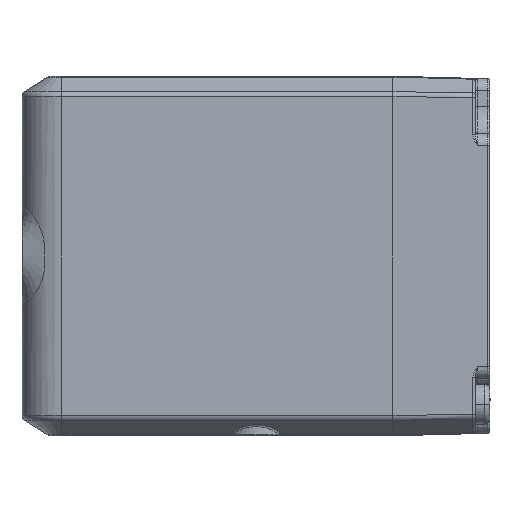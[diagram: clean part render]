
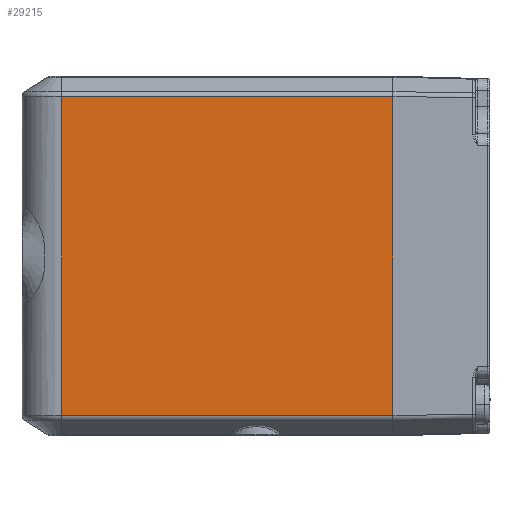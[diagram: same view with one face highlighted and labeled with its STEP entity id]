
A CAD part, left-side view. The second image highlights one B-rep face of the part: STEP entity #29215.
In plain terms, the highlighted planar face has unit normal (-1, 0, 0).
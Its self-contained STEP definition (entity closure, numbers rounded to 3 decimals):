
#4582=CARTESIAN_POINT('',(-25.75,8.5,
-13.973));
#4602=DIRECTION('',(0.,-1.,0.));
#4603=VECTOR('',#4602,29.);
#4604=CARTESIAN_POINT('',(-25.75,37.5,-13.973));
#4605=LINE('',#4604,#4603);
#4748=DIRECTION('',(0.,0.,-1.));
#4749=VECTOR('',#4748,27.946);
#4750=CARTESIAN_POINT('',(-25.75,37.5,13.973));
#4751=LINE('',#4750,#4749);
#4796=DIRECTION('',(0.,0.,-1.));
#4797=VECTOR('',#4796,27.946);
#4798=CARTESIAN_POINT('',(-25.75,8.5,13.973));
#4799=LINE('',#4798,#4797);
#4822=DIRECTION('',(0.,1.,0.));
#4823=VECTOR('',#4822,29.);
#4824=CARTESIAN_POINT('',(-25.75,8.5,13.973));
#4825=LINE('',#4824,#4823);
#17631=VERTEX_POINT('',#4582);
#17632=CARTESIAN_POINT('',(-25.75,37.5,-13.973));
#17633=VERTEX_POINT('',#17632);
#17634=CARTESIAN_POINT('',(-25.75,8.5,
13.973));
#17635=VERTEX_POINT('',#17634);
#17636=CARTESIAN_POINT('',(-25.75,37.5,13.973));
#17637=VERTEX_POINT('',#17636);
#29202=CARTESIAN_POINT('',(-25.75,41.,-15.75));
#29203=DIRECTION('',(-1.,0.,0.));
#29204=DIRECTION('',(0.,-1.,0.));
#29205=AXIS2_PLACEMENT_3D('',#29202,#29203,#29204);
#29206=PLANE('',#29205);
#29208=ORIENTED_EDGE('',*,*,#29207,.T.);
#29209=ORIENTED_EDGE('',*,*,#29060,.F.);
#29210=ORIENTED_EDGE('',*,*,#29190,.F.);
#29212=ORIENTED_EDGE('',*,*,#29211,.F.);
#29213=EDGE_LOOP('',(#29208,#29209,#29210,#29212));
#29214=FACE_OUTER_BOUND('',#29213,.F.);
#29215=ADVANCED_FACE('',(#29214),#29206,.T.);
#29060=EDGE_CURVE('',#17633,#17631,#4605,.T.);
#29190=EDGE_CURVE('',#17637,#17633,#4751,.T.);
#29207=EDGE_CURVE('',#17635,#17631,#4799,.T.);
#29211=EDGE_CURVE('',#17635,#17637,#4825,.T.);
